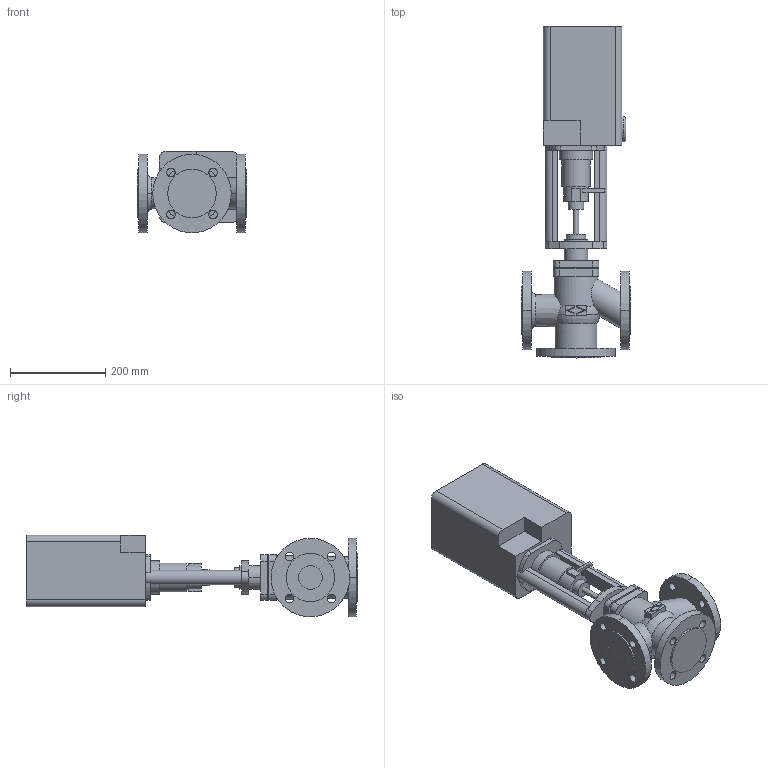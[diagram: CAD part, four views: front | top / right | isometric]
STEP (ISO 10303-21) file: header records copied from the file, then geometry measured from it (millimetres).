
FILE_DESCRIPTION(('OneSpaceDesigner STEP Export'),'2;1');
FILE_NAME('c000002380.stp','2006-09-19T11:53:42',(''),(''),'OneSpace Designer STEP processor for AP214 (Solid Model)','OneSpace Designer 13.20A 18-Aug-2005 (C) CoCreate Software GmbH','');
FILE_SCHEMA(('AUTOMOTIVE_DESIGN { 1 0 10303 214 1 1 1 1 }'));
Length unit declared in the file: millimetre
Products named in the file (2): 1; 2
Bounding box: 230 x 697.5 x 171.5 mm (x, y, z)
Volume: 9735297.3 mm3; surface area: 536805.7 mm2
Topology: 2 solids, 2 shells, 198 faces, 503 edges, 333 vertices
Faces by surface type: plane 94, cylinder 92, torus 8, cone 4
Entity records: 5764 total; most frequent: CARTESIAN_POINT 1184, ORIENTED_EDGE 1006, DIRECTION 861, EDGE_CURVE 503, VERTEX_POINT 333, AXIS2_PLACEMENT_3D 298, VECTOR 265, LINE 265
